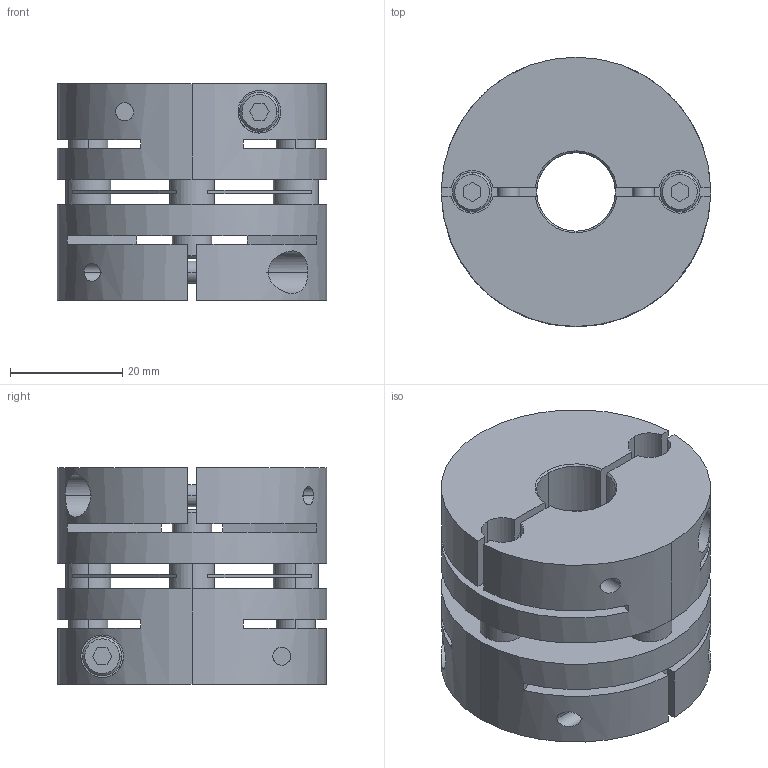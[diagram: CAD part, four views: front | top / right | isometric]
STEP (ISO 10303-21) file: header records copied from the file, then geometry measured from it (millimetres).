
FILE_DESCRIPTION((''),'2;1');
FILE_NAME('LAS-48C-14×22.stp','2015-10-14T15:45:03',(''),(''),'AutoCAD STEP 2000i','AutoCAD 2000i',', , ');
FILE_SCHEMA(('CONFIG_CONTROL_DESIGN'));
Length unit declared in the file: millimetre
Products named in the file (6): LAS-48C-12×19; 忣兜1; LA-4802-D19; LA-4802-D12-1; LA-4802-D12; LAS48-ITA
Assembly tree (5 placements, depth 2):
  LAS-48C-12×19
    忣兜1
    LA-4802-D19
    LA-4802-D12-1
    LA-4802-D12
    LAS48-ITA
Bounding box: 48 x 48 x 38.6 mm (x, y, z)
Volume: 47234.1 mm3; surface area: 21956.2 mm2
Topology: 1 solids, 1 shells, 224 faces, 600 edges, 392 vertices
Faces by surface type: plane 112, cylinder 84, cone 28
Entity records: 7841 total; most frequent: CARTESIAN_POINT 1878, DIRECTION 1256, ORIENTED_EDGE 1200, EDGE_CURVE 600, AXIS2_PLACEMENT_3D 458, VERTEX_POINT 392, VECTOR 340, LINE 340
